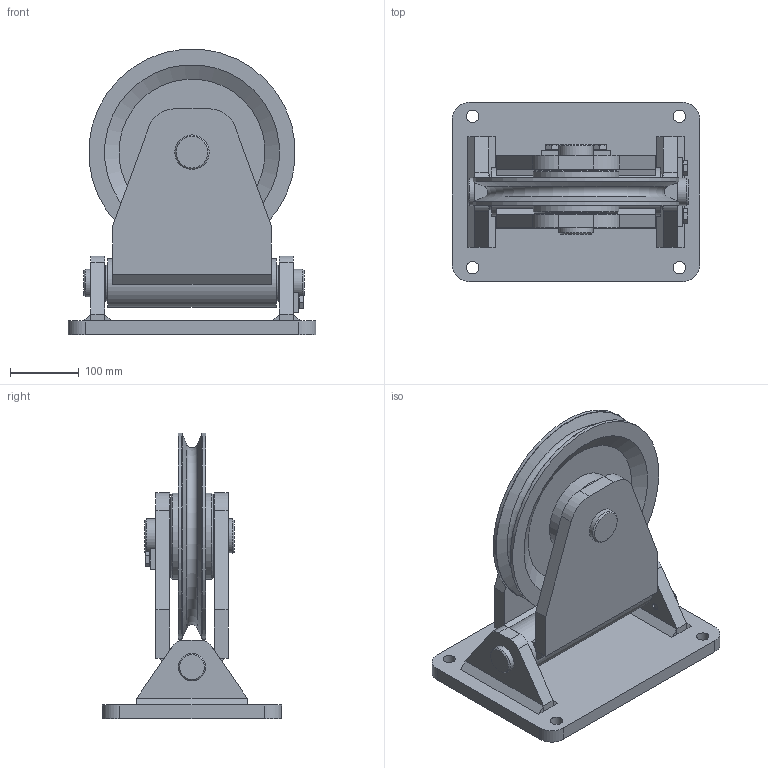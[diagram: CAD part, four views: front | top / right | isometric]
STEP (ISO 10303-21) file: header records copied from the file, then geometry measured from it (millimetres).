
FILE_DESCRIPTION(/* description */ ('Seilrolle ø300 einfach Schwenkbar SE 300 K'),/* implementation_level */ '2;1');
FILE_NAME(/* name */ 'Z:\Workspace\03 Seilrollen\1.409 K Seilrollen einfach schwenkbar Kugellager\1.409.05 K Seilrolle ø300 einfach schwenkbar SE 300 K\1.409.05 K Seilrolle ø300 einfach Schwenkbar SE 300 K.stp',/* time_stamp */ '2021-10-18T12:29:40+02:00',/* author */ ('cad-user'),/* organization */ (''),/* preprocessor_version */ 'ST-DEVELOPER v18',/* originating_system */ 'Autodesk Inventor 2020',/* authorisation */ '');
FILE_SCHEMA (('AUTOMOTIVE_DESIGN { 1 0 10303 214 3 1 1 }'));
Length unit declared in the file: millimetre
Products named in the file (24): 1.409.05 K Seilrolle ø300 einfach Schwenkbar SE 300
 K; 1.409.05.01 Konsole Schweißteil; 1.409.05.01 Konsole Schweißteil_1; 1.409.05.02 Platte 1; 1.409.05.03 Platte 2; 1.409.05.03 Platte 2_1; 1.409.05.06  Schwenkkonsole Schweißteil; 1.409.05.06  Schwenkkonsole Schweißteil_1; 1.409.05.05 Rohr; 1.409.05.04 Platte 3; 1.409.05.04 Platte 3_1; 1.409.05.07 Achse 1; 1.409.05.08 Achse 2; 1.402.08 Seilrolle ø300 Kugellager komplett; 1.402.08 Seilrolle ø300 Kugellager; 62210-2RS1; ball_bearing_62210-2rs1_0_05; ball_bearing_62210-2rs1_0_04; ball_bearing_62210-2rs1_0_03; ball_bearing_62210-2rs1_0_02; ball_bearing_62210-2rs1_0_01; 1.409.05.09 Lasche; DIN 933 - M12  x 25; bb404640bp25
Assembly tree (29 placements, depth 4):
  1.409.05 K Seilrolle ø300 einfach Schwenkbar SE 300
 K
    1.409.05.01 Konsole Schweißteil
      1.409.05.01 Konsole Schweißteil_1
      1.409.05.02 Platte 1
      1.409.05.03 Platte 2
      1.409.05.03 Platte 2_1
    1.409.05.06  Schwenkkonsole Schweißteil
      1.409.05.06  Schwenkkonsole Schweißteil_1
      1.409.05.05 Rohr
      1.409.05.04 Platte 3
      1.409.05.04 Platte 3_1
    1.409.05.07 Achse 1
    1.409.05.08 Achse 2
    1.402.08 Seilrolle ø300 Kugellager komplett
      1.402.08 Seilrolle ø300 Kugellager
      62210-2RS1  x2
        ball_bearing_62210-2rs1_0_05
        ball_bearing_62210-2rs1_0_04
        ball_bearing_62210-2rs1_0_03
        ball_bearing_62210-2rs1_0_02
        ball_bearing_62210-2rs1_0_01
    1.409.05.09 Lasche  x2
    DIN 933 - M12  x 25  x4
    bb404640bp25  x2
Bounding box: 360 x 260 x 414.48 mm (x, y, z)
Volume: 7090324.9 mm3; surface area: 1069636.3 mm2
Topology: 33 solids, 33 shells, 360 faces, 909 edges, 643 vertices
Faces by surface type: plane 178, cylinder 93, cone 54, torus 35
Full cylindrical faces by diameter (mm): 10.106 x4, 11.053 x4, 12 x4, 13 x4, 17.2 x4, 18 x4, 40 x5, 42 x1, 46 x4, 50 x5, 52 x2, 60.891 x4, 63.975 x4, 70 x1, 76.812 x4, 80 x1, 81.125 x4, 81.7 x8, 81.918 x4, 90 x4, 125 x2, 300 x2
Entity records: 8186 total; most frequent: DIRECTION 1442, CARTESIAN_POINT 1294, ORIENTED_EDGE 1154, AXIS2_PLACEMENT_3D 592, EDGE_CURVE 577, VERTEX_POINT 408, CIRCLE 307, EDGE_LOOP 293
